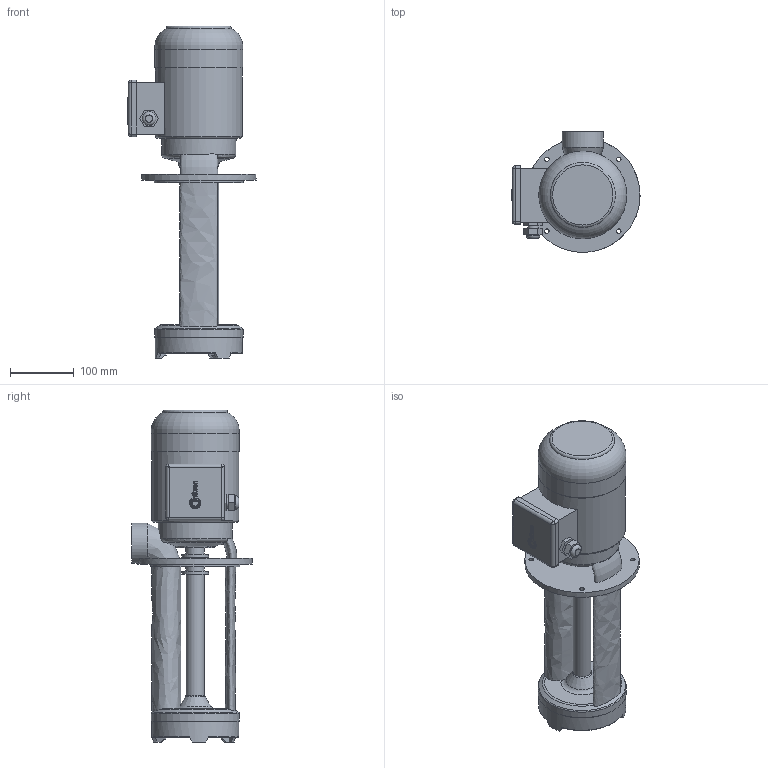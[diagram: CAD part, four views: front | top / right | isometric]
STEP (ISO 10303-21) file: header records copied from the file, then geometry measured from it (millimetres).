
FILE_DESCRIPTION(/* description */ ('Unknown'),/* implementation_level */ '2;1');
FILE_NAME(/* name */ 'EPV 250-280',/* time_stamp */ '2025-05-30T15:07:11+03:00',/* author */ ('Unknown'),/* organization */ ('Unknown'),/* preprocessor_version */ 'ST-DEVELOPER v16.7',/* originating_system */ 'DEX',/* authorisation */ $);
FILE_SCHEMA (('AUTOMOTIVE_DESIGN {1 0 10303 214 3 1 1}'));
Length unit declared in the file: millimetre
Products named in the file (1): EPV 250-280
Bounding box: 201.5 x 190 x 522.36 mm (x, y, z)
Volume: 5157955.7 mm3; surface area: 336704.8 mm2
Topology: 1 solids, 1 shells, 268 faces, 678 edges, 435 vertices
Faces by surface type: plane 91, bspline 81, cylinder 56, torus 26, cone 14
Full cylindrical faces by diameter (mm): 7 x4, 17 x1, 21.5 x1, 28 x1, 29 x3, 30 x1, 42 x2, 44 x1, 48 x1, 62 x1, 94 x1, 116.969 x1, 136.473 x1, 137 x1, 137.994 x1, 139 x1, 140 x1, 180 x1
Entity records: 11389 total; most frequent: CARTESIAN_POINT 5687, ORIENTED_EDGE 1212, DIRECTION 973, EDGE_CURVE 606, VERTEX_POINT 419, AXIS2_PLACEMENT_3D 372, EDGE_LOOP 363, FACE_BOUND 363
